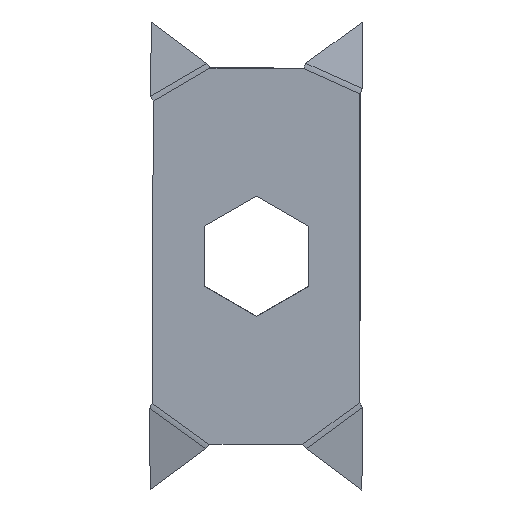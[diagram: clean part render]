
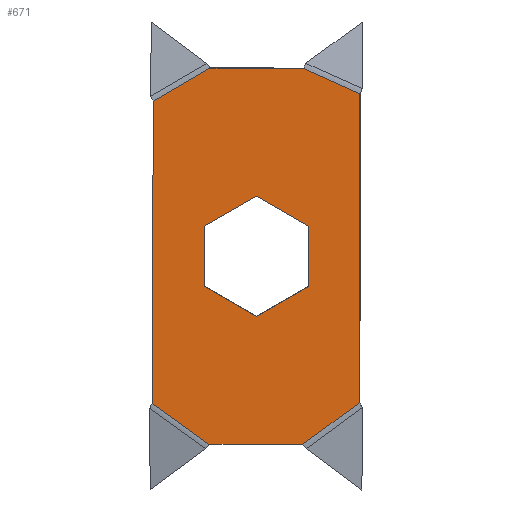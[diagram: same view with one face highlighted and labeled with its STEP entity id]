
A CAD part, left-side view. The second image highlights one B-rep face of the part: STEP entity #671.
In plain terms, the highlighted planar face has unit normal (-1, 0.017, -0.011).
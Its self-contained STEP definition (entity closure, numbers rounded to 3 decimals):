
#14=FACE_BOUND('',#96,.T.);
#51=FACE_OUTER_BOUND('',#95,.T.);
#95=EDGE_LOOP('',(#460,#461,#462,#463,#464,#465,#466,#467));
#96=EDGE_LOOP('',(#468,#469,#470,#471,#472,#473));
#139=LINE('',#911,#219);
#146=LINE('',#954,#226);
#147=LINE('',#956,#227);
#148=LINE('',#958,#228);
#149=LINE('',#960,#229);
#150=LINE('',#962,#230);
#151=LINE('',#964,#231);
#152=LINE('',#965,#232);
#153=LINE('',#968,#233);
#154=LINE('',#970,#234);
#155=LINE('',#972,#235);
#156=LINE('',#974,#236);
#157=LINE('',#976,#237);
#158=LINE('',#977,#238);
#219=VECTOR('',#756,9.968);
#226=VECTOR('',#767,7.486);
#227=VECTOR('',#768,32.876);
#228=VECTOR('',#769,6.576);
#229=VECTOR('',#770,9.962);
#230=VECTOR('',#771,6.99);
#231=VECTOR('',#772,32.169);
#232=VECTOR('',#773,7.387);
#233=VECTOR('',#774,6.409);
#234=VECTOR('',#775,6.409);
#235=VECTOR('',#776,6.409);
#236=VECTOR('',#777,6.409);
#237=VECTOR('',#778,6.409);
#238=VECTOR('',#779,6.409);
#299=VERTEX_POINT('',#908);
#300=VERTEX_POINT('',#910);
#305=VERTEX_POINT('',#945);
#307=VERTEX_POINT('',#955);
#308=VERTEX_POINT('',#957);
#309=VERTEX_POINT('',#959);
#310=VERTEX_POINT('',#961);
#311=VERTEX_POINT('',#963);
#312=VERTEX_POINT('',#966);
#313=VERTEX_POINT('',#967);
#314=VERTEX_POINT('',#969);
#315=VERTEX_POINT('',#971);
#316=VERTEX_POINT('',#973);
#317=VERTEX_POINT('',#975);
#353=EDGE_CURVE('',#299,#300,#139,.T.);
#363=EDGE_CURVE('',#299,#305,#146,.T.);
#364=EDGE_CURVE('',#307,#305,#147,.T.);
#365=EDGE_CURVE('',#308,#307,#148,.T.);
#366=EDGE_CURVE('',#309,#308,#149,.T.);
#367=EDGE_CURVE('',#309,#310,#150,.T.);
#368=EDGE_CURVE('',#311,#310,#151,.T.);
#369=EDGE_CURVE('',#300,#311,#152,.T.);
#370=EDGE_CURVE('',#312,#313,#153,.T.);
#371=EDGE_CURVE('',#313,#314,#154,.T.);
#372=EDGE_CURVE('',#314,#315,#155,.T.);
#373=EDGE_CURVE('',#315,#316,#156,.T.);
#374=EDGE_CURVE('',#316,#317,#157,.T.);
#375=EDGE_CURVE('',#317,#312,#158,.T.);
#460=ORIENTED_EDGE('',*,*,#363,.T.);
#461=ORIENTED_EDGE('',*,*,#364,.F.);
#462=ORIENTED_EDGE('',*,*,#365,.F.);
#463=ORIENTED_EDGE('',*,*,#366,.F.);
#464=ORIENTED_EDGE('',*,*,#367,.T.);
#465=ORIENTED_EDGE('',*,*,#368,.F.);
#466=ORIENTED_EDGE('',*,*,#369,.F.);
#467=ORIENTED_EDGE('',*,*,#353,.F.);
#468=ORIENTED_EDGE('',*,*,#370,.T.);
#469=ORIENTED_EDGE('',*,*,#371,.T.);
#470=ORIENTED_EDGE('',*,*,#372,.T.);
#471=ORIENTED_EDGE('',*,*,#373,.T.);
#472=ORIENTED_EDGE('',*,*,#374,.T.);
#473=ORIENTED_EDGE('',*,*,#375,.T.);
#641=PLANE('',#717);
#671=ADVANCED_FACE('',(#51,#14),#641,.F.);
#717=AXIS2_PLACEMENT_3D('',#953,#765,#766);
#756=DIRECTION('',(0.017,1.,0.002));
#765=DIRECTION('center_axis',(1.,-0.017,0.011));
#766=DIRECTION('ref_axis',(0.011,0.002,-1.));
#767=DIRECTION('',(-0.02,-0.807,0.59));
#768=DIRECTION('',(0.011,0.002,-1.));
#769=DIRECTION('',(-0.011,-0.912,-0.411));
#770=DIRECTION('',(-0.017,-1.,-0.002));
#771=DIRECTION('',(0.02,0.865,-0.502));
#772=DIRECTION('',(-0.011,-0.002,1.));
#773=DIRECTION('',(0.007,0.811,0.585));
#774=DIRECTION('',(0.011,0.002,-1.));
#775=DIRECTION('',(0.02,0.867,-0.498));
#776=DIRECTION('',(0.009,0.865,0.502));
#777=DIRECTION('',(-0.011,-0.002,1.));
#778=DIRECTION('',(-0.02,-0.867,0.498));
#779=DIRECTION('',(-0.009,-0.865,-0.502));
#908=CARTESIAN_POINT('',(7.552,-4.551,-19.405));
#910=CARTESIAN_POINT('',(7.719,5.415,-19.385));
#911=CARTESIAN_POINT('',(7.551,-4.583,-19.405));
#945=CARTESIAN_POINT('',(7.401,-10.59,-14.985));
#953=CARTESIAN_POINT('Origin',(7.414,0.379,0.604));
#954=CARTESIAN_POINT('',(7.393,-10.915,-14.748));
#955=CARTESIAN_POINT('',(7.037,-10.651,17.889));
#956=CARTESIAN_POINT('',(6.958,-10.664,25.08));
#957=CARTESIAN_POINT('',(7.108,-4.657,20.592));
#958=CARTESIAN_POINT('',(7.073,-7.613,19.259));
#959=CARTESIAN_POINT('',(7.276,5.304,20.613));
#960=CARTESIAN_POINT('',(7.277,5.342,20.613));
#961=CARTESIAN_POINT('',(7.417,11.347,17.103));
#962=CARTESIAN_POINT('',(7.392,10.311,17.705));
#963=CARTESIAN_POINT('',(7.773,11.407,-15.064));
#964=CARTESIAN_POINT('',(7.87,11.423,-23.872));
#965=CARTESIAN_POINT('',(7.777,11.93,-14.687));
#966=CARTESIAN_POINT('',(7.285,-5.176,3.797));
#967=CARTESIAN_POINT('',(7.356,-5.164,-2.612));
#968=CARTESIAN_POINT('',(7.303,-5.173,2.195));
#969=CARTESIAN_POINT('',(7.485,0.391,-5.804));
#970=CARTESIAN_POINT('',(7.388,-3.775,-3.41));
#971=CARTESIAN_POINT('',(7.543,5.934,-2.589));
#972=CARTESIAN_POINT('',(7.499,1.777,-5.001));
#973=CARTESIAN_POINT('',(7.472,5.923,3.819));
#974=CARTESIAN_POINT('',(7.525,5.931,-0.987));
#975=CARTESIAN_POINT('',(7.343,0.367,7.012));
#976=CARTESIAN_POINT('',(7.44,4.534,4.617));
#977=CARTESIAN_POINT('',(7.328,-1.018,6.208));
